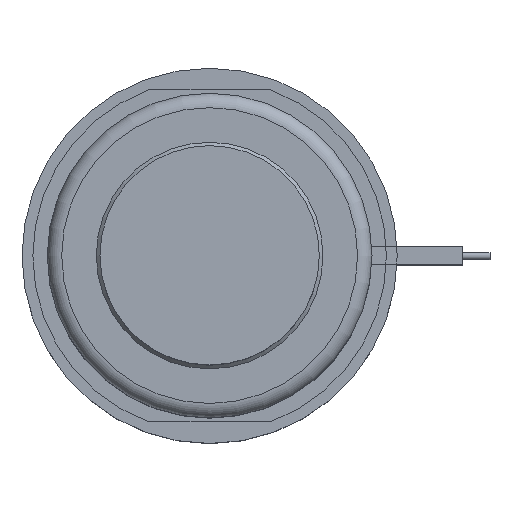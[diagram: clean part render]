
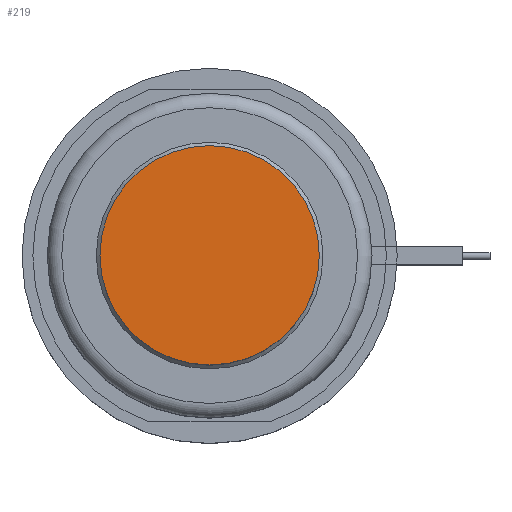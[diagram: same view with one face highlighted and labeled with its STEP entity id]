
A CAD part, top view. The second image highlights one B-rep face of the part: STEP entity #219.
In plain terms, the highlighted planar face has unit normal (0, 0, 1).
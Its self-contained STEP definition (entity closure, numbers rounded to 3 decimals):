
#219=ADVANCED_FACE('',(#343),#282,.F.);
#282=PLANE('',#1377);
#343=FACE_OUTER_BOUND('',#629,.T.);
#629=EDGE_LOOP('',(#861));
#861=ORIENTED_EDGE('',*,*,#1152,.F.);
#1025=VERTEX_POINT('',#2134);
#1152=EDGE_CURVE('',#1025,#1025,#1250,.T.);
#1250=CIRCLE('',#1376,15.2);
#1376=AXIS2_PLACEMENT_3D('',#2133,#1672,#1673);
#1377=AXIS2_PLACEMENT_3D('',#2135,#1674,#1675);
#1672=DIRECTION('',(0.,0.,-1.));
#1673=DIRECTION('',(-1.,0.,0.));
#1674=DIRECTION('',(0.,0.,-1.));
#1675=DIRECTION('',(-1.,0.,0.));
#2133=CARTESIAN_POINT('',(0.,0.,18.));
#2134=CARTESIAN_POINT('',(-15.2,0.,18.));
#2135=CARTESIAN_POINT('',(0.,0.,18.));
